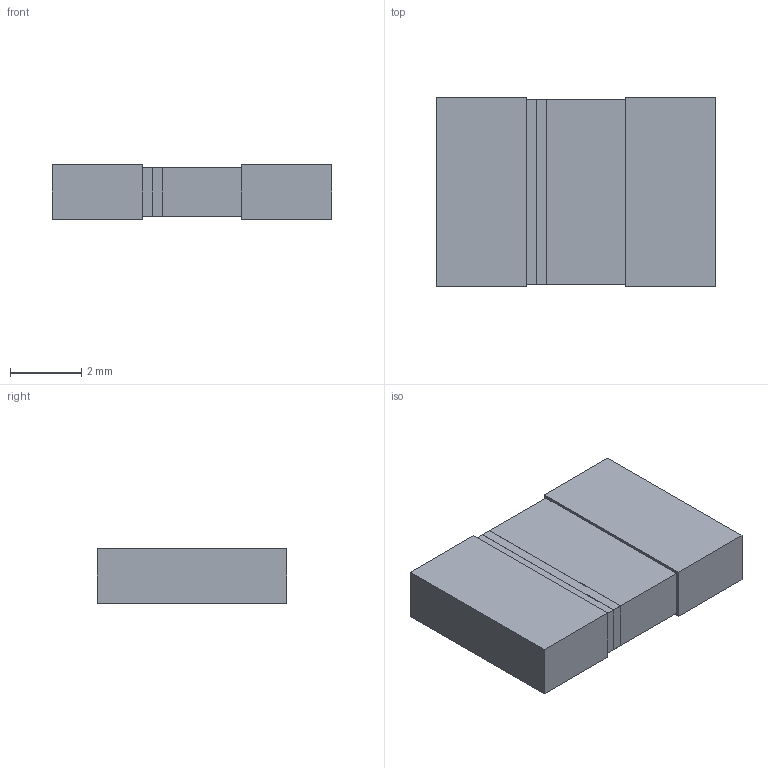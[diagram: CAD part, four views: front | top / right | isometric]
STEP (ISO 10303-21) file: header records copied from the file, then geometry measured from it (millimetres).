
FILE_DESCRIPTION(('STEP AP214'),'1');
FILE_NAME('FUSE_2920L50016_LTF','2026-03-29T10:22:47',(''),(''),'','','');
FILE_SCHEMA(('AUTOMOTIVE_DESIGN'));
Length unit declared in the file: millimetre
Products named in the file (1): product
Bounding box: 7.87 x 5.33 x 1.52 mm (x, y, z)
Volume: 61.2 mm3; surface area: 160.4 mm2
Topology: 4 solids, 4 shells, 30 faces, 64 edges, 40 vertices
Faces by surface type: plane 30
Entity records: 916 total; most frequent: ORIENTED_EDGE 128, DIRECTION 126, CARTESIAN_POINT 71, EDGE_CURVE 64, LINE 64, VECTOR 64, VERTEX_POINT 40, AXIS2_PLACEMENT_3D 31
